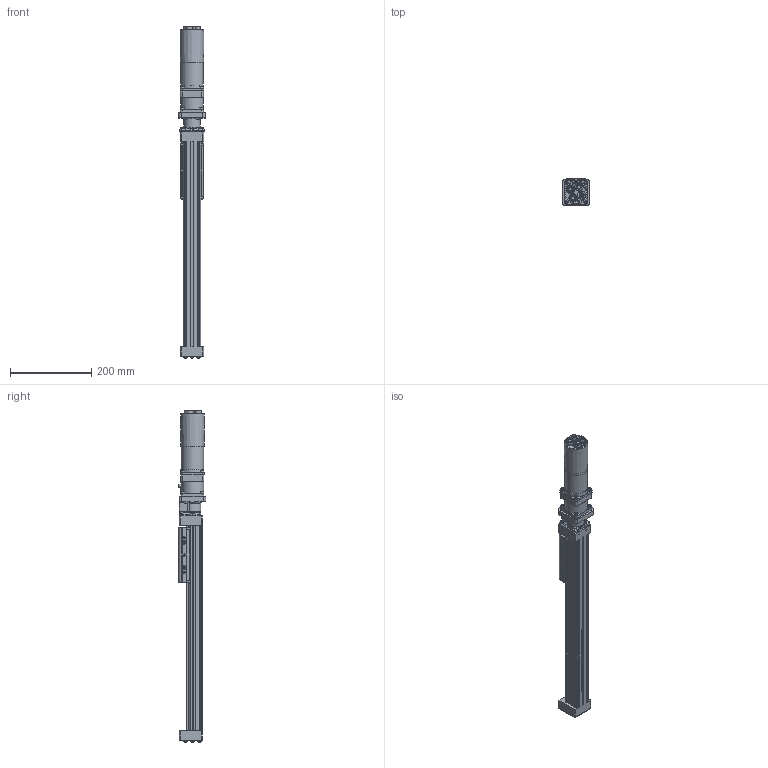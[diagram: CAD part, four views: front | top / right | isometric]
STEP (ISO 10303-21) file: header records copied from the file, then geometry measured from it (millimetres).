
FILE_DESCRIPTION (( 'STEP AP203' ), '1' );
FILE_NAME ('MXE25S_BNL08_SM360.000_MXE-475347-1.step', '2024-11-18T21:29:40', ( '' ), ( '' ), 'SwSTEP 2.0', 'SolidWorks 2024', '' );
FILE_SCHEMA (( 'CONFIG_CONTROL_DESIGN' ));
Length unit declared in the file: inch
Products named in the file (7): 83259009_MXE25S_BNL08_SM360.000_MXE-475347-1; tempJoin4_45109049_MXE25S_BNL08_SM360.000_MXE-475347-1; tempJoin1_36049491_MXE25S_BNL08_SM360.000_MXE-475347-1; tempJoin12_45109053_MXE25S_BNL08_SM360.000_MXE-475347-1; MXE25S_BNL08_SM360.000_MXE-475347-1; Base_MXE25S_BNL08_SM360.000_MXE-475347-1; 83259005_MXE25S_BNL08_SM360.000_MXE-475347-1
Assembly tree (6 placements, depth 2):
  MXE25S_BNL08_SM360.000_MXE-475347-1
    tempJoin1_36049491_MXE25S_BNL08_SM360.000_MXE-475347-1
    tempJoin12_45109053_MXE25S_BNL08_SM360.000_MXE-475347-1
    tempJoin4_45109049_MXE25S_BNL08_SM360.000_MXE-475347-1
    83259005_MXE25S_BNL08_SM360.000_MXE-475347-1
    83259009_MXE25S_BNL08_SM360.000_MXE-475347-1
    Base_MXE25S_BNL08_SM360.000_MXE-475347-1
Bounding box: 66.04 x 68.42 x 817.66 mm (x, y, z)
Volume: 1325297.5 mm3; surface area: 384621.2 mm2
Topology: 10 solids, 29 shells, 1859 faces, 4536 edges, 2944 vertices
Faces by surface type: plane 1181, cylinder 509, cone 86, torus 38, bspline 29, sphere 16
Full cylindrical faces by diameter (mm): 0.75 x4, 1 x5, 2.013 x2, 2.459 x1, 2.5 x4, 2.921 x4, 3 x4, 3.1 x5, 3.3 x9, 3.5 x4, 3.956 x2, 3.969 x2, 4 x9, 4.04 x2, 4.134 x4, 4.2 x12, 4.201 x4, 4.5 x2, 4.572 x1, 4.826 x4, 5 x32, 5.001 x4, 5.2 x7, 5.5 x12, 5.69 x4, 6 x10, 6.35 x3, 6.7 x1, 7 x13, 7.874 x4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
Entity records: 54187 total; most frequent: CARTESIAN_POINT 11278, DIRECTION 8800, ORIENTED_EDGE 8084, EDGE_CURVE 4042, AXIS2_PLACEMENT_3D 3102, VERTEX_POINT 2815, LINE 2596, VECTOR 2596
